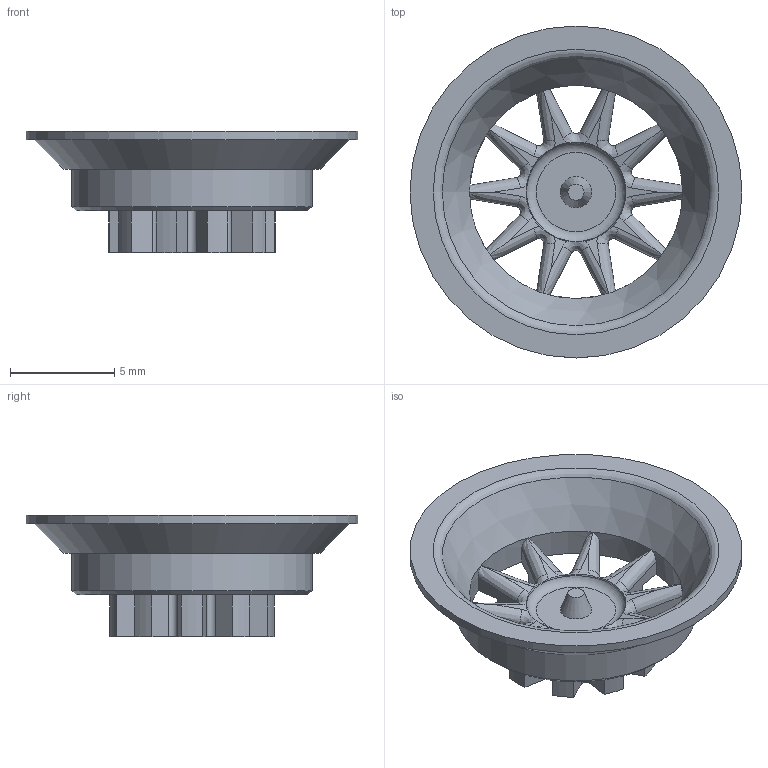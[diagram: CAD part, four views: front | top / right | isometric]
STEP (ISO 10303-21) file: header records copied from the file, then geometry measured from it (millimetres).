
FILE_DESCRIPTION(/* description */ (''),/* implementation_level */ '2;1');
FILE_NAME(/* name */ 'D:\Habi\Carrera\3D\Chassis\F1\Felgeneinsatz_F1.stp',/* time_stamp */ '2021-01-17T11:27:31+01:00',/* author */ ('Habi'),/* organization */ (''),/* preprocessor_version */ 'ST-DEVELOPER v18',/* originating_system */ 'Autodesk Inventor 2020',/* authorisation */ '');
FILE_SCHEMA (('AUTOMOTIVE_DESIGN { 1 0 10303 214 3 1 1 }'));
Length unit declared in the file: millimetre
Products named in the file (1): Felgeneinsatz_F1
Bounding box: 15.9 x 15.9 x 5.8 mm (x, y, z)
Volume: 192.8 mm3; surface area: 680.3 mm2
Topology: 1 solids, 1 shells, 100 faces, 322 edges, 210 vertices
Faces by surface type: bspline 30, plane 28, cylinder 24, cone 16, torus 2
Full cylindrical faces by diameter (mm): 4.9 x1, 10.213 x1, 11.5 x1, 15.9 x1
Entity records: 5272 total; most frequent: CARTESIAN_POINT 2581, ORIENTED_EDGE 644, DIRECTION 454, EDGE_CURVE 322, VERTEX_POINT 210, AXIS2_PLACEMENT_3D 172, B_SPLINE_CURVE_WITH_KNOTS 111, LINE 110
